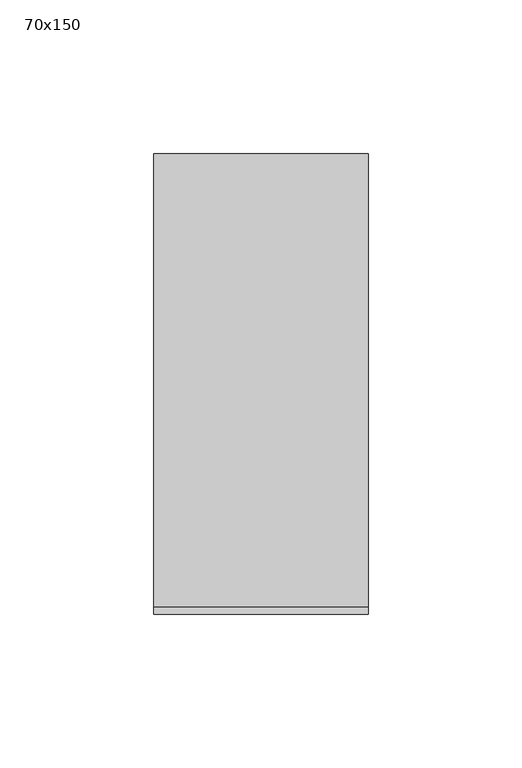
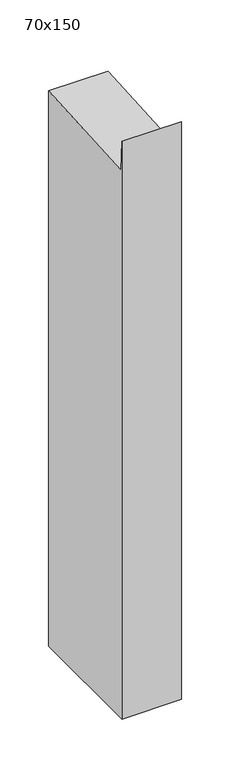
"""IFC4 building model written with IfcOpenShell, lengths in millimetres: member geometry, 長方形のマリオン : 70x150."""

from ifc_helpers import new_model, si_unit, frame, origin, place, context, project, spatial, polyline, outline, extrude, source, transform, mapped, element, save


def member_70x150_9ac4fcb9(model_context):
    return source(origin(), model_context, "Body", "SweptSolid", [
        extrude(outline(polyline([(-75.0, 32.5670767), (-72.5739814, -4.787149), (75.0, 4.7972345), (75.0, -688.7165361), (-75.0, -688.7165361), (-75.0, 32.5670767)])), frame((-70.0, 0.0, 0.0), z_axis=(1.0, 0.0, 0.0), x_axis=(0.0, 1.0, 0.0)), (0.0, 0.0, 1.0), 70.0),
    ])


if __name__ == "__main__":
    model = new_model("IFC4")
    model_context = context("Model", 3, world=origin())
    ifc_project = project(units=[si_unit("LENGTHUNIT", "METRE", prefix="MILLI")], contexts=[model_context])
    site = spatial("IfcSite", under=ifc_project)
    building = spatial("IfcBuilding", under=site)
    placement = place(None, origin())
    member_70x150_shape = member_70x150_9ac4fcb9(model_context)
    element("IfcMember", 1, ObjectType="長方形のマリオン : 70x150", at=placement, inside=building, context=model_context, shape_type="MappedRepresentation", body=[
        mapped(member_70x150_shape, transform((0.0, 0.0, 0.0), x_axis=(1.0, 0.0, 0.0), y_axis=(0.0, 1.0, 0.0), z_axis=(0.0, 0.0, 1.0))),
    ])
    save(model, "model.ifc")
